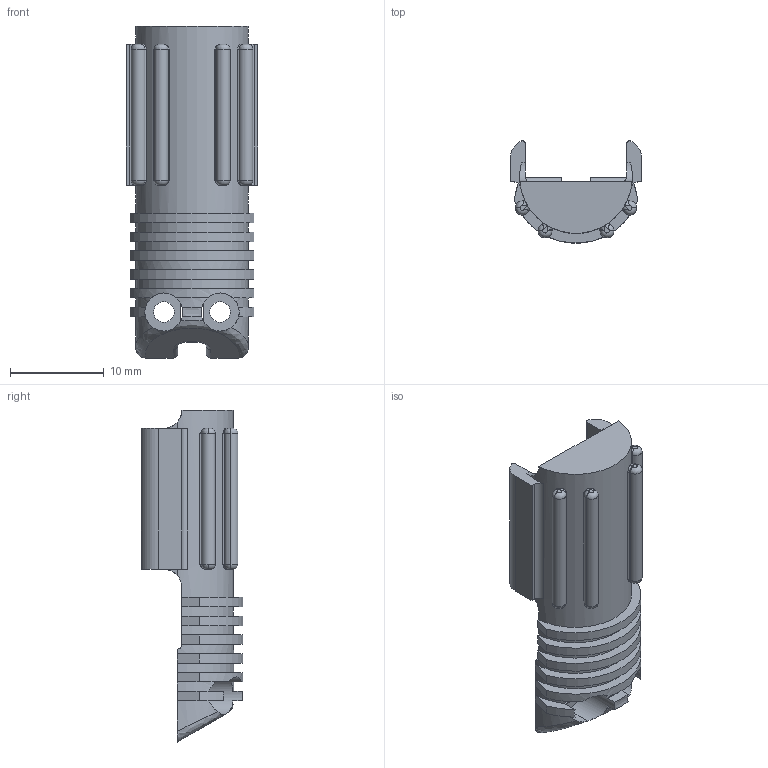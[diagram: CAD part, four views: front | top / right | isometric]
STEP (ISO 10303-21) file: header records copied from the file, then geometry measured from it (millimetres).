
FILE_DESCRIPTION (( 'STEP AP203' ), '1' );
FILE_NAME ('BR01_FOOT_HEEL_v5.STEP');
FILE_SCHEMA (( 'CONFIG_CONTROL_DESIGN' ));
Length unit declared in the file: millimetre
Products named in the file (1): BR01_FOOT_HEEL_v5
Bounding box: 14 x 10.84 x 35.35 mm (x, y, z)
Volume: 1747.9 mm3; surface area: 2128.6 mm2
Topology: 1 solids, 1 shells, 200 faces, 538 edges, 342 vertices
Faces by surface type: plane 77, cylinder 74, torus 46, bspline 3
Entity records: 6766 total; most frequent: CARTESIAN_POINT 1661, ORIENTED_EDGE 1076, DIRECTION 1075, EDGE_CURVE 538, AXIS2_PLACEMENT_3D 419, VERTEX_POINT 342, LINE 237, VECTOR 237
